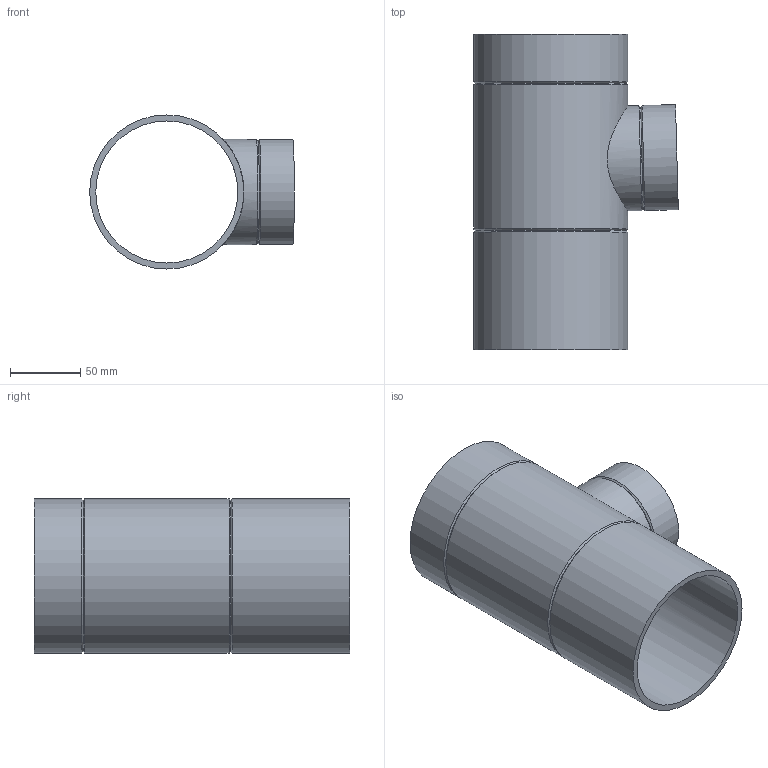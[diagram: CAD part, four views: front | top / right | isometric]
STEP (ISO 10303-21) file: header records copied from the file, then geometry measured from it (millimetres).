
FILE_DESCRIPTION(/* description */ (''),/* implementation_level */ '2;1');
FILE_NAME(/* name */ 'Z:\Geberit\Export\NewStep\367175.stp',/* time_stamp */ '2014-04-02T07:56:03+02:00',/* author */ ('nelson'),/* organization */ (''),/* preprocessor_version */ 'ST-DEVELOPER v15.2',/* originating_system */ 'Autodesk Inventor 2014',/* authorisation */ '');
FILE_SCHEMA (('AUTOMOTIVE_DESIGN { 1 0 10303 214 3 1 1 }'));
Length unit declared in the file: millimetre
Products named in the file (1): 367175
Bounding box: 145.95 x 225 x 110 mm (x, y, z)
Volume: 331020.4 mm3; surface area: 164885.9 mm2
Topology: 1 solids, 1 shells, 16 faces, 37 edges, 23 vertices
Faces by surface type: cylinder 7, cone 6, plane 3
Full cylindrical faces by diameter (mm): 69 x1, 75 x2, 101.4 x1, 110 x3
Entity records: 503 total; most frequent: CARTESIAN_POINT 181, DIRECTION 64, EDGE_LOOP 34, ORIENTED_EDGE 34, AXIS2_PLACEMENT_3D 32, FACE_BOUND 22, VERTEX_POINT 17, EDGE_CURVE 17
